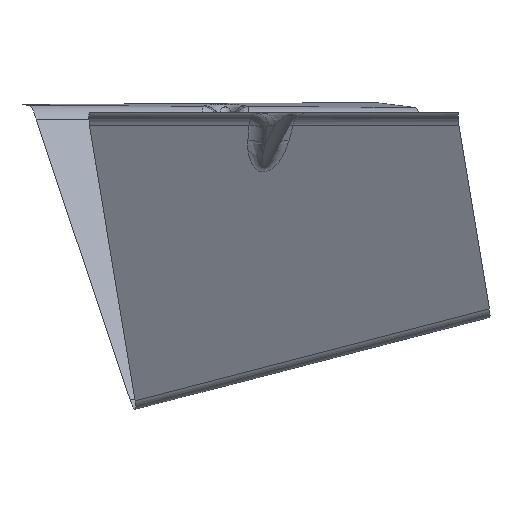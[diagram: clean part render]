
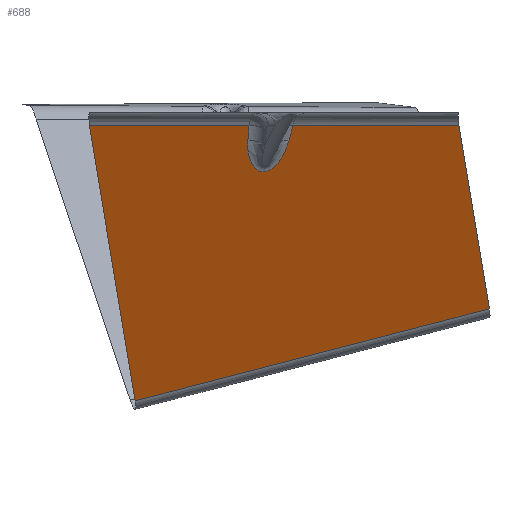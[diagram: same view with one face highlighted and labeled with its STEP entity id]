
A CAD part, left-side view. The second image highlights one B-rep face of the part: STEP entity #688.
In plain terms, the highlighted planar face has unit normal (-0.83, -0.249, -0.5).
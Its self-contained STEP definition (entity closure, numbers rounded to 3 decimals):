
#254=CARTESIAN_POINT('Vertex',(-82.981,6.798,-1.55)) ;
#277=CARTESIAN_POINT('Line Origine',(-66.613,8.721,-29.661)) ;
#281=CARTESIAN_POINT('Vertex',(-80.646,7.072,-5.56)) ;
#570=CARTESIAN_POINT('Control Point',(-77.307,-4.058,-5.56)) ;
#571=CARTESIAN_POINT('Control Point',(-77.108,-3.958,-5.941)) ;
#572=CARTESIAN_POINT('Control Point',(-76.912,-3.848,-6.321)) ;
#573=CARTESIAN_POINT('Control Point',(-76.719,-3.727,-6.7)) ;
#574=CARTESIAN_POINT('Control Point',(-76.347,-3.468,-7.446)) ;
#575=CARTESIAN_POINT('Control Point',(-75.991,-3.164,-8.188)) ;
#576=CARTESIAN_POINT('Control Point',(-75.82,-3.003,-8.552)) ;
#577=CARTESIAN_POINT('Control Point',(-75.503,-2.674,-9.242)) ;
#578=CARTESIAN_POINT('Control Point',(-75.206,-2.296,-9.923)) ;
#579=CARTESIAN_POINT('Control Point',(-75.069,-2.104,-10.246)) ;
#580=CARTESIAN_POINT('Control Point',(-74.826,-1.723,-10.837)) ;
#581=CARTESIAN_POINT('Control Point',(-74.608,-1.291,-11.414)) ;
#582=CARTESIAN_POINT('Control Point',(-74.514,-1.08,-11.677)) ;
#583=CARTESIAN_POINT('Control Point',(-74.355,-0.672,-12.143)) ;
#584=CARTESIAN_POINT('Control Point',(-74.226,-0.212,-12.585)) ;
#585=CARTESIAN_POINT('Control Point',(-74.176,0.006,-12.778)) ;
#586=CARTESIAN_POINT('Control Point',(-74.101,0.415,-13.105)) ;
#587=CARTESIAN_POINT('Control Point',(-74.062,0.873,-13.397)) ;
#588=CARTESIAN_POINT('Control Point',(-74.053,1.083,-13.517)) ;
#589=CARTESIAN_POINT('Control Point',(-74.054,1.502,-13.724)) ;
#590=CARTESIAN_POINT('Control Point',(-74.099,1.959,-13.877)) ;
#591=CARTESIAN_POINT('Control Point',(-74.131,2.183,-13.935)) ;
#592=CARTESIAN_POINT('Control Point',(-74.206,2.566,-14.001)) ;
#593=CARTESIAN_POINT('Control Point',(-74.315,2.949,-14.01)) ;
#594=CARTESIAN_POINT('Control Point',(-74.364,3.1,-14.005)) ;
#595=CARTESIAN_POINT('Control Point',(-74.466,3.383,-13.976)) ;
#596=CARTESIAN_POINT('Control Point',(-74.583,3.652,-13.917)) ;
#597=CARTESIAN_POINT('Control Point',(-74.641,3.775,-13.882)) ;
#598=CARTESIAN_POINT('Control Point',(-74.915,4.32,-13.698)) ;
#599=CARTESIAN_POINT('Control Point',(-75.225,4.772,-13.409)) ;
#600=CARTESIAN_POINT('Control Point',(-75.473,5.072,-13.146)) ;
#601=CARTESIAN_POINT('Control Point',(-75.889,5.509,-12.674)) ;
#602=CARTESIAN_POINT('Control Point',(-76.302,5.851,-12.159)) ;
#603=CARTESIAN_POINT('Control Point',(-76.471,5.979,-11.943)) ;
#604=CARTESIAN_POINT('Control Point',(-76.854,6.243,-11.439)) ;
#605=CARTESIAN_POINT('Control Point',(-77.231,6.453,-10.918)) ;
#606=CARTESIAN_POINT('Control Point',(-77.44,6.556,-10.622)) ;
#607=CARTESIAN_POINT('Control Point',(-77.908,6.759,-9.947)) ;
#608=CARTESIAN_POINT('Control Point',(-78.366,6.903,-9.259)) ;
#609=CARTESIAN_POINT('Control Point',(-78.618,6.967,-8.872)) ;
#610=CARTESIAN_POINT('Control Point',(-79.187,7.08,-7.984)) ;
#611=CARTESIAN_POINT('Control Point',(-79.741,7.121,-7.086)) ;
#612=CARTESIAN_POINT('Control Point',(-80.048,7.124,-6.579)) ;
#613=CARTESIAN_POINT('Control Point',(-80.349,7.107,-6.07)) ;
#614=CARTESIAN_POINT('Control Point',(-80.646,7.072,-5.56)) ;
#615=CARTESIAN_POINT('Vertex',(-77.307,-4.058,-5.56)) ;
#633=CARTESIAN_POINT('Axis2P3D Location',(-37.185,-11.155,-68.59)) ;
#638=CARTESIAN_POINT('Line Origine',(-78.357,-4.586,-3.555)) ;
#642=CARTESIAN_POINT('Vertex',(-79.407,-5.115,-1.55)) ;
#645=CARTESIAN_POINT('Line Origine',(-89.456,28.382,-1.55)) ;
#649=CARTESIAN_POINT('Vertex',(-95.931,49.966,-1.55)) ;
#652=CARTESIAN_POINT('Line Origine',(-71.647,43.793,-38.765)) ;
#656=CARTESIAN_POINT('Vertex',(-47.363,37.619,-75.979)) ;
#659=CARTESIAN_POINT('Line Origine',(-40.483,-10.317,-63.537)) ;
#663=CARTESIAN_POINT('Vertex',(-33.602,-58.253,-51.094)) ;
#666=CARTESIAN_POINT('Line Origine',(-49.767,-54.143,-26.322)) ;
#670=CARTESIAN_POINT('Vertex',(-65.931,-50.034,-1.55)) ;
#673=CARTESIAN_POINT('Line Origine',(-72.669,-27.574,-1.55)) ;
#278=DIRECTION('Vector Direction',(0.502,0.059,-0.863)) ;
#634=DIRECTION('Axis2P3D Direction',(0.83,0.249,0.5)) ;
#635=DIRECTION('Axis2P3D XDirection',(0.541,-0.138,-0.83)) ;
#639=DIRECTION('Vector Direction',(-0.452,-0.227,0.863)) ;
#646=DIRECTION('Vector Direction',(0.287,-0.958,0.)) ;
#653=DIRECTION('Vector Direction',(0.541,-0.138,-0.83)) ;
#660=DIRECTION('Vector Direction',(0.138,-0.959,0.249)) ;
#667=DIRECTION('Vector Direction',(-0.541,0.138,0.83)) ;
#674=DIRECTION('Vector Direction',(0.287,-0.958,0.)) ;
#636=AXIS2_PLACEMENT_3D('Plane Axis2P3D',#633,#634,#635) ;
#679=ORIENTED_EDGE('',*,*,#644,.T.) ;
#680=ORIENTED_EDGE('',*,*,#617,.T.) ;
#681=ORIENTED_EDGE('',*,*,#283,.T.) ;
#682=ORIENTED_EDGE('',*,*,#651,.F.) ;
#683=ORIENTED_EDGE('',*,*,#658,.T.) ;
#684=ORIENTED_EDGE('',*,*,#665,.T.) ;
#685=ORIENTED_EDGE('',*,*,#672,.T.) ;
#686=ORIENTED_EDGE('',*,*,#677,.F.) ;
#279=VECTOR('Line Direction',#278,1.) ;
#640=VECTOR('Line Direction',#639,1.) ;
#647=VECTOR('Line Direction',#646,1.) ;
#654=VECTOR('Line Direction',#653,1.) ;
#661=VECTOR('Line Direction',#660,1.) ;
#668=VECTOR('Line Direction',#667,1.) ;
#675=VECTOR('Line Direction',#674,1.) ;
#688=ADVANCED_FACE('Extract.1',(#687),#637,.F.) ;
#569=B_SPLINE_CURVE_WITH_KNOTS('',5,(#570,#571,#572,#573,#574,#575,#576,#577,#578,#579,#580,#581,#582,#583,#584,#585,#586,#587,#588,#589,#590,#591,#592,#593,#594,#595,#596,#597,#598,#599,#600,#601,#602,#603,#604,#605,#606,#607,#608,#609,#610,#611,#612,#613,#614),.UNSPECIFIED.,.F.,.U.,(6,3,3,3,3,3,3,3,3,3,3,3,3,3,6),(20.811,23.751,26.604,29.193,31.415,33.213,34.599,35.855,36.693,37.452,40.162,42.056,44.487,47.536,51.475),.UNSPECIFIED.) ;
#283=EDGE_CURVE('',#282,#255,#280,.F.) ;
#617=EDGE_CURVE('',#616,#282,#569,.T.) ;
#644=EDGE_CURVE('',#643,#616,#641,.F.) ;
#651=EDGE_CURVE('',#650,#255,#648,.T.) ;
#658=EDGE_CURVE('',#650,#657,#655,.T.) ;
#665=EDGE_CURVE('',#657,#664,#662,.T.) ;
#672=EDGE_CURVE('',#664,#671,#669,.T.) ;
#677=EDGE_CURVE('',#643,#671,#676,.T.) ;
#678=EDGE_LOOP('',(#679,#680,#681,#682,#683,#684,#685,#686)) ;
#687=FACE_OUTER_BOUND('',#678,.T.) ;
#280=LINE('Line',#277,#279) ;
#641=LINE('Line',#638,#640) ;
#648=LINE('Line',#645,#647) ;
#655=LINE('Line',#652,#654) ;
#662=LINE('Line',#659,#661) ;
#669=LINE('Line',#666,#668) ;
#676=LINE('Line',#673,#675) ;
#637=PLANE('',#636) ;
#255=VERTEX_POINT('',#254) ;
#282=VERTEX_POINT('',#281) ;
#616=VERTEX_POINT('',#615) ;
#643=VERTEX_POINT('',#642) ;
#650=VERTEX_POINT('',#649) ;
#657=VERTEX_POINT('',#656) ;
#664=VERTEX_POINT('',#663) ;
#671=VERTEX_POINT('',#670) ;
